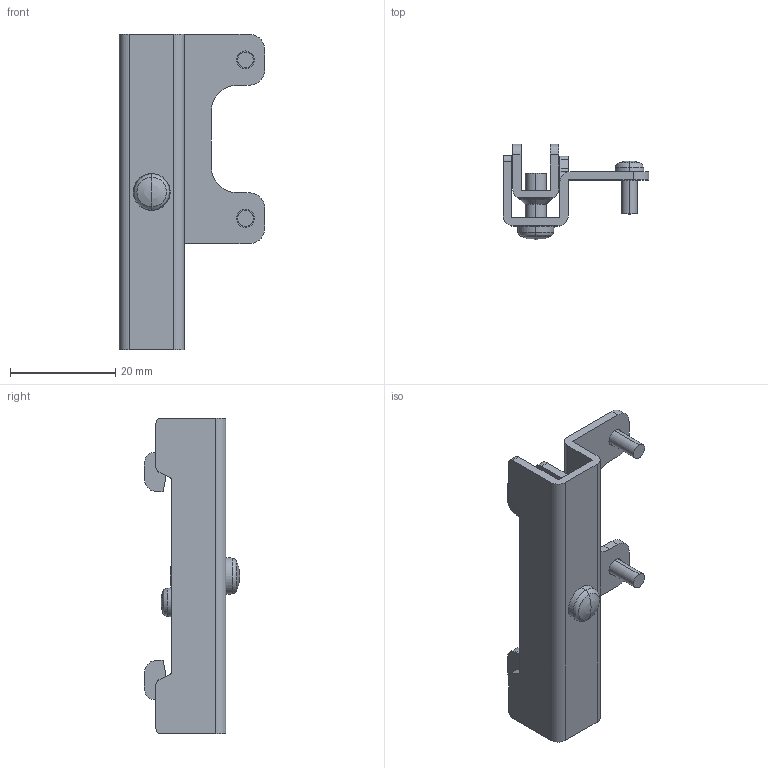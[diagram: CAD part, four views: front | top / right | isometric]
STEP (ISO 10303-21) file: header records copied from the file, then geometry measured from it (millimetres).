
FILE_DESCRIPTION( (''), '2;1');
FILE_NAME ('YS8Z-DN.stp','2022-12-01T15:00:12',(''),(''),'spGate 12.6.6','','');
FILE_SCHEMA (('AUTOMOTIVE_DESIGN'));
Length unit declared in the file: millimetre
Bounding box: 27.7 x 18.1 x 60 mm (x, y, z)
Volume: 5055.6 mm3; surface area: 6964 mm2
Topology: 1 solids, 1 shells, 131 faces, 351 edges, 225 vertices
Faces by surface type: plane 61, cylinder 50, bspline 14, sphere 6
Entity records: 6966 total; most frequent: CARTESIAN_POINT 984, ORIENTED_EDGE 690, DIRECTION 663, COLOUR_RGB 477, PRESENTATION_STYLE_ASSIGNMENT 477, STYLED_ITEM 477, EDGE_CURVE 345, DRAUGHTING_PRE_DEFINED_CURVE_FONT 345
